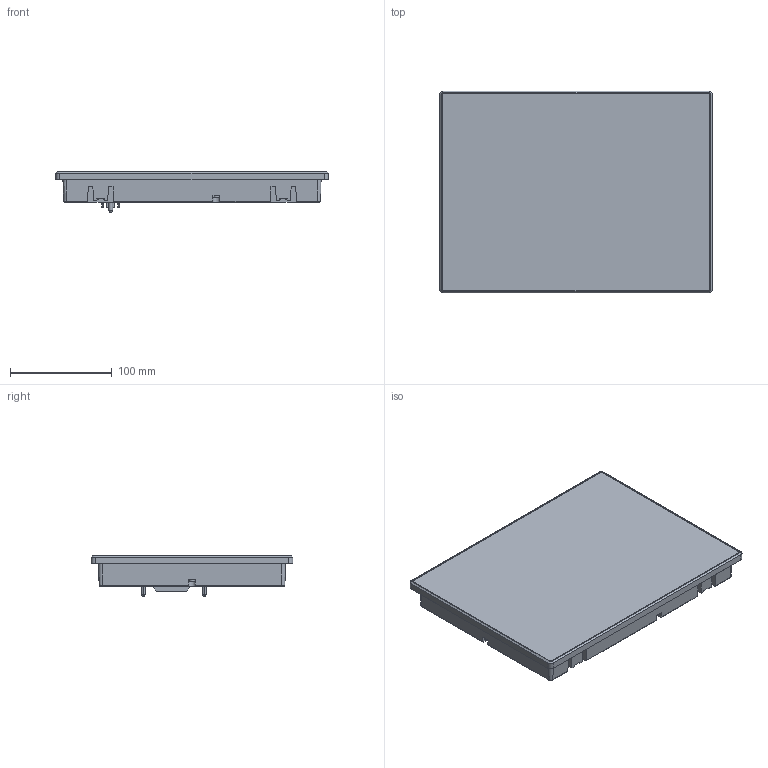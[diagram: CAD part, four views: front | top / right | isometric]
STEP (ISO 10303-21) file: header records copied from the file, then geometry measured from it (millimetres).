
FILE_DESCRIPTION((''),'2;1');
FILE_NAME('SIMPL_ASM','2021-04-14T15:29:49',('danae.lavaud'),(''),'CREO PARAMETRIC BY PTC INC, 2018260','CREO PARAMETRIC BY PTC INC, 2018260','');
FILE_SCHEMA(('CONFIG_CONTROL_DESIGN'));
Products named in the file (8): PRT0001_1; HUA1256901_1_1_1; HUA1145401_1_1_1; ASM0005_ASM_1_ASM; PRT0002_1; SIMPL_ASM_1_ASM; PFXDM6500WC_ASM_ASM; SIMPL_ASM
Assembly tree (17 placements, depth 5):
  SIMPL_ASM
    PFXDM6500WC_ASM_ASM
      SIMPL_ASM_1_ASM
        PRT0001_1
        ASM0005_ASM_1_ASM
          HUA1256901_1_1_1  x8
          HUA1145401_1_1_1  x4
        PRT0002_1
Bounding box: 268.5 x 198.5 x 40 mm (x, y, z)
Volume: 1406109.7 mm3; surface area: 152881.2 mm2
Topology: 14 solids, 26 shells, 776 faces, 2076 edges, 1324 vertices
Faces by surface type: cylinder 308, plane 232, cone 144, torus 52, sphere 24, extrusion 16
Entity records: 13254 total; most frequent: CARTESIAN_POINT 3341, ORIENTED_EDGE 2048, DIRECTION 1982, EDGE_CURVE 1028, VERTEX_POINT 674, AXIS2_PLACEMENT_3D 663, VECTOR 656, LINE 640
